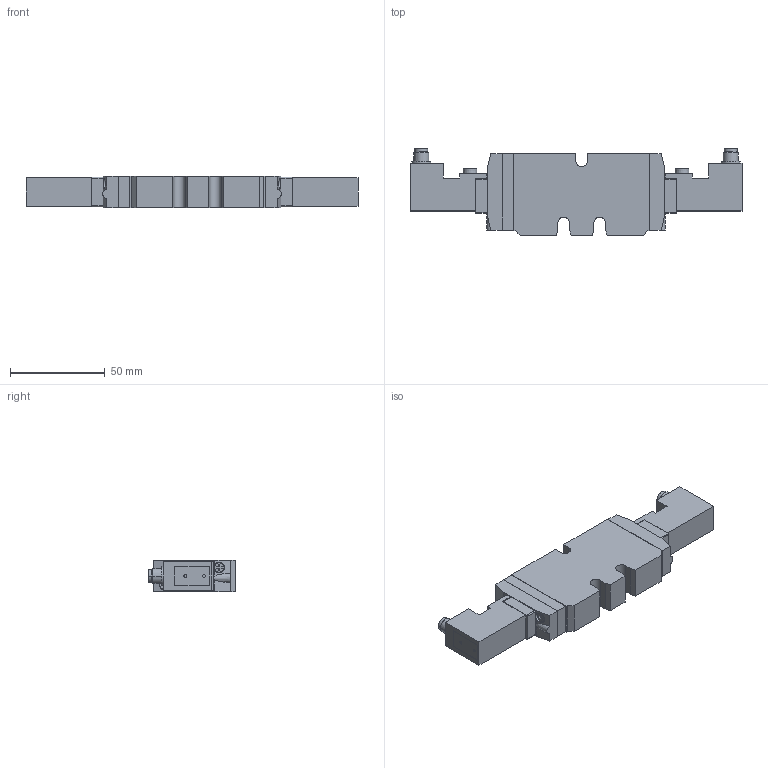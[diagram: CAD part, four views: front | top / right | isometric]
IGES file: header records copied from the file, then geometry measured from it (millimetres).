
Start section:  PTC IGES file: 0820061796\0820061796.iges
Global section: file name: 0820061796\0820061796.iges; native system: Creo Parametric by PTC Inc.; preprocessor: 2020044; author: THD3HC; organization: Unknown; date: 20230622.105327; units: millimetre
Bounding box: 175.6 x 45.9 x 16.8 mm (x, y, z)
Surface area: 22176.1 mm2 (no closed solid volume)
Topology: 0 solids, 0 shells, 388 faces, 1992 edges, 1992 vertices
Faces by surface type: bspline 295, revolution 93
